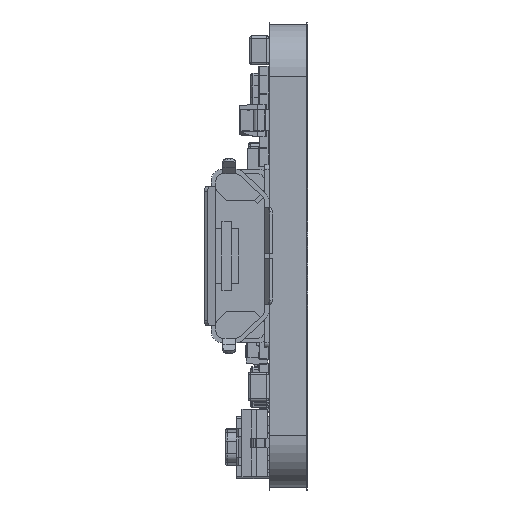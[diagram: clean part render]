
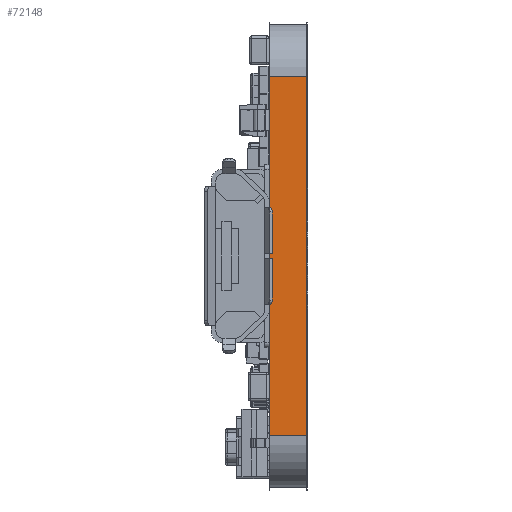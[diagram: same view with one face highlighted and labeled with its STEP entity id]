
A CAD part, left-side view. The second image highlights one B-rep face of the part: STEP entity #72148.
In plain terms, the highlighted planar face has unit normal (-1, 0, 0).
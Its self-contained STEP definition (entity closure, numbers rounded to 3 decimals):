
#72148 = ADVANCED_FACE ( 'NONE', ( #180671 ), #183473, .T. ) ;
#103717 = VERTEX_POINT ( 'NONE', #115881 ) ;
#103719 = VERTEX_POINT ( 'NONE', #115887 ) ;
#103976 = VERTEX_POINT ( 'NONE', #116548 ) ;
#103979 = VERTEX_POINT ( 'NONE', #116556 ) ;
#103984 = VERTEX_POINT ( 'NONE', #116570 ) ;
#103986 = VERTEX_POINT ( 'NONE', #116575 ) ;
#110300 = VERTEX_POINT ( 'NONE', #120602 ) ;
#110303 = VERTEX_POINT ( 'NONE', #120605 ) ;
#110309 = VERTEX_POINT ( 'NONE', #120613 ) ;
#110312 = VERTEX_POINT ( 'NONE', #120616 ) ;
#110904 = LINE ( 'NONE', #124116, #110911 ) ;
#110911 = VECTOR ( 'NONE', #124117, 1000. ) ;
#113008 = EDGE_CURVE ( 'NONE', #103719, #103717, #110904, .T. ) ;
#114250 = EDGE_CURVE ( 'NONE', #110300, #110303, #129537, .T. ) ;
#114263 = EDGE_CURVE ( 'NONE', #110309, #110312, #129550, .T. ) ;
#115353 = EDGE_CURVE ( 'NONE', #103979, #103976, #131020, .T. ) ;
#115364 = EDGE_CURVE ( 'NONE', #103984, #110300, #131037, .T. ) ;
#115366 = EDGE_CURVE ( 'NONE', #103986, #103984, #131043, .T. ) ;
#115371 = EDGE_CURVE ( 'NONE', #103986, #103719, #131048, .T. ) ;
#115374 = EDGE_CURVE ( 'NONE', #103717, #103979, #131054, .T. ) ;
#115377 = EDGE_CURVE ( 'NONE', #103976, #110312, #131061, .T. ) ;
#115382 = EDGE_CURVE ( 'NONE', #110303, #110309, #131067, .T. ) ;
#115881 = CARTESIAN_POINT ( 'NONE',  ( 100., -1.6, -102.929 ) ) ;
#115887 = CARTESIAN_POINT ( 'NONE',  ( 100., -1.6, -117.071 ) ) ;
#116548 = CARTESIAN_POINT ( 'NONE',  ( 100., 0., -102.25 ) ) ;
#116556 = CARTESIAN_POINT ( 'NONE',  ( 100., -1.6, -102.25 ) ) ;
#116570 = CARTESIAN_POINT ( 'NONE',  ( 100., 0., -117.75 ) ) ;
#116575 = CARTESIAN_POINT ( 'NONE',  ( 100., -1.6, -117.75 ) ) ;
#120602 = CARTESIAN_POINT ( 'NONE',  ( 100., 0., -117.071 ) ) ;
#120605 = CARTESIAN_POINT ( 'NONE',  ( 100., 0., -113.862 ) ) ;
#120613 = CARTESIAN_POINT ( 'NONE',  ( 100., 0., -106.163 ) ) ;
#120616 = CARTESIAN_POINT ( 'NONE',  ( 100., 0., -102.929 ) ) ;
#122658 = ORIENTED_EDGE ( 'NONE', *, *, #115364, .F. ) ;
#122660 = ORIENTED_EDGE ( 'NONE', *, *, #115366, .F. ) ;
#122663 = ORIENTED_EDGE ( 'NONE', *, *, #115371, .T. ) ;
#122665 = ORIENTED_EDGE ( 'NONE', *, *, #113008, .T. ) ;
#122667 = ORIENTED_EDGE ( 'NONE', *, *, #115374, .T. ) ;
#122669 = ORIENTED_EDGE ( 'NONE', *, *, #115353, .T. ) ;
#122671 = ORIENTED_EDGE ( 'NONE', *, *, #115377, .T. ) ;
#122674 = ORIENTED_EDGE ( 'NONE', *, *, #114263, .F. ) ;
#122676 = ORIENTED_EDGE ( 'NONE', *, *, #115382, .F. ) ;
#122678 = ORIENTED_EDGE ( 'NONE', *, *, #114250, .F. ) ;
#124116 = CARTESIAN_POINT ( 'NONE',  ( 100., -1.6, -102.25 ) ) ;
#124117 = DIRECTION ( 'NONE',  ( 0., 0., 1. ) ) ;
#127893 = CARTESIAN_POINT ( 'NONE',  ( 100., 0., -102.25 ) ) ;
#127896 = DIRECTION ( 'NONE',  ( 0., 0., 1. ) ) ;
#127929 = CARTESIAN_POINT ( 'NONE',  ( 100., 0., -102.25 ) ) ;
#127932 = DIRECTION ( 'NONE',  ( 0., 0., 1. ) ) ;
#129376 = CARTESIAN_POINT ( 'NONE',  ( 100., -1.6, -102.25 ) ) ;
#129378 = DIRECTION ( 'NONE',  ( 0., 1., 0. ) ) ;
#129390 = CARTESIAN_POINT ( 'NONE',  ( 100., 0., -102.25 ) ) ;
#129392 = DIRECTION ( 'NONE',  ( 0., 0., 1. ) ) ;
#129395 = CARTESIAN_POINT ( 'NONE',  ( 100., -1.6, -117.75 ) ) ;
#129396 = DIRECTION ( 'NONE',  ( 0., 1., 0. ) ) ;
#129399 = CARTESIAN_POINT ( 'NONE',  ( 100., -1.6, -102.25 ) ) ;
#129400 = DIRECTION ( 'NONE',  ( 0., 0., 1. ) ) ;
#129403 = CARTESIAN_POINT ( 'NONE',  ( 100., -1.6, -102.25 ) ) ;
#129405 = DIRECTION ( 'NONE',  ( 0., 0., 1. ) ) ;
#129407 = CARTESIAN_POINT ( 'NONE',  ( 100., 0., -102.25 ) ) ;
#129409 = DIRECTION ( 'NONE',  ( 0., 0., -1. ) ) ;
#129411 = CARTESIAN_POINT ( 'NONE',  ( 100., 0., -102.25 ) ) ;
#129413 = DIRECTION ( 'NONE',  ( 0., 0., 1. ) ) ;
#129537 = LINE ( 'NONE', #127893, #129541 ) ;
#129541 = VECTOR ( 'NONE', #127896, 1000. ) ;
#129550 = LINE ( 'NONE', #127929, #129554 ) ;
#129554 = VECTOR ( 'NONE', #127932, 1000. ) ;
#131020 = LINE ( 'NONE', #129376, #131025 ) ;
#131025 = VECTOR ( 'NONE', #129378, 1000. ) ;
#131037 = LINE ( 'NONE', #129390, #131040 ) ;
#131040 = VECTOR ( 'NONE', #129392, 1000. ) ;
#131043 = LINE ( 'NONE', #129395, #131046 ) ;
#131046 = VECTOR ( 'NONE', #129396, 1000. ) ;
#131048 = LINE ( 'NONE', #129399, #131051 ) ;
#131051 = VECTOR ( 'NONE', #129400, 1000. ) ;
#131054 = LINE ( 'NONE', #129403, #131058 ) ;
#131058 = VECTOR ( 'NONE', #129405, 1000. ) ;
#131061 = LINE ( 'NONE', #129407, #131064 ) ;
#131064 = VECTOR ( 'NONE', #129409, 1000. ) ;
#131067 = LINE ( 'NONE', #129411, #131069 ) ;
#131069 = VECTOR ( 'NONE', #129413, 1000. ) ;
#145855 = EDGE_LOOP ( 'NONE', ( #122658, #122660, #122663, #122665, #122667, #122669, #122671, #122674, #122676, #122678 ) ) ;
#162504 = AXIS2_PLACEMENT_3D ( 'NONE', #183476, #183479, #183480 ) ;
#180671 = FACE_OUTER_BOUND ( 'NONE', #145855, .T. ) ;
#183473 = PLANE ( 'NONE',  #162504 ) ;
#183476 = CARTESIAN_POINT ( 'NONE',  ( 100., -1.6, -102.25 ) ) ;
#183479 = DIRECTION ( 'NONE',  ( -1., 0., 0. ) ) ;
#183480 = DIRECTION ( 'NONE',  ( 0., 0., 1. ) ) ;
